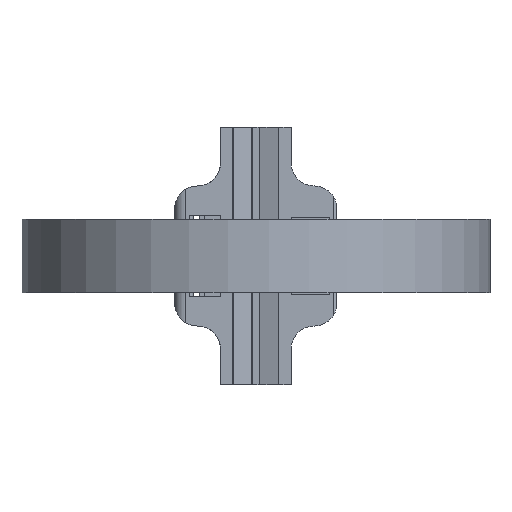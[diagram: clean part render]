
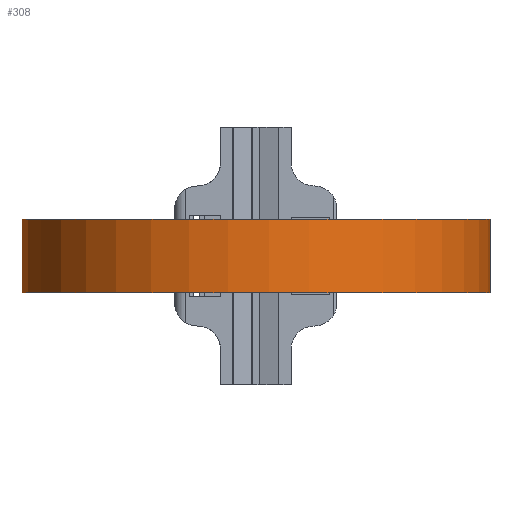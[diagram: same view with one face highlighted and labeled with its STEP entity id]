
A CAD part, front view. The second image highlights one B-rep face of the part: STEP entity #308.
In plain terms, the highlighted cylindrical face has radius 31.8 mm (diameter 63.6 mm), a partial arc.
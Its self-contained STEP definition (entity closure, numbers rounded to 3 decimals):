
#308 = ADVANCED_FACE( '', ( #667 ), #668, .T. );
#667 = FACE_OUTER_BOUND( '', #1074, .T. );
#668 = CYLINDRICAL_SURFACE( '', #1075, 31.8 );
#1074 = EDGE_LOOP( '', ( #1973, #1974, #1975, #1976 ) );
#1075 = AXIS2_PLACEMENT_3D( '', #1977, #1978, #1979 );
#1973 = ORIENTED_EDGE( '', *, *, #2835, .T. );
#1974 = ORIENTED_EDGE( '', *, *, #2519, .F. );
#1975 = ORIENTED_EDGE( '', *, *, #2703, .F. );
#1976 = ORIENTED_EDGE( '', *, *, #2836, .T. );
#1977 = CARTESIAN_POINT( '', ( 0., -31.65, 5. ) );
#1978 = DIRECTION( '', ( 0., 0., 1. ) );
#1979 = DIRECTION( '', ( -1., 0., 0. ) );
#2519 = EDGE_CURVE( '', #3051, #3047, #3053, .T. );
#2703 = EDGE_CURVE( '', #3352, #3051, #3354, .T. );
#2835 = EDGE_CURVE( '', #3542, #3047, #3543, .T. );
#2836 = EDGE_CURVE( '', #3352, #3542, #3544, .T. );
#3047 = VERTEX_POINT( '', #3808 );
#3051 = VERTEX_POINT( '', #3813 );
#3053 = LINE( '', #3815, #3816 );
#3352 = VERTEX_POINT( '', #4300 );
#3354 = CIRCLE( '', #4302, 31.8 );
#3542 = VERTEX_POINT( '', #4591 );
#3543 = CIRCLE( '', #4592, 31.8 );
#3544 = LINE( '', #4593, #4594 );
#3808 = CARTESIAN_POINT( '', ( 10.006, -1.465, -5. ) );
#3813 = CARTESIAN_POINT( '', ( 10.006, -1.465, 5. ) );
#3815 = CARTESIAN_POINT( '', ( 10.006, -1.465, 5. ) );
#3816 = VECTOR( '', #4825, 1000. );
#4300 = CARTESIAN_POINT( '', ( -8.086, -0.895, 5. ) );
#4302 = AXIS2_PLACEMENT_3D( '', #5043, #5044, #5045 );
#4591 = CARTESIAN_POINT( '', ( -8.086, -0.895, -5. ) );
#4592 = AXIS2_PLACEMENT_3D( '', #5204, #5205, #5206 );
#4593 = CARTESIAN_POINT( '', ( -8.086, -0.895, 5. ) );
#4594 = VECTOR( '', #5207, 1000. );
#4825 = DIRECTION( '', ( 0., 0., -1. ) );
#5043 = CARTESIAN_POINT( '', ( 0., -31.65, 5. ) );
#5044 = DIRECTION( '', ( 0., 0., 1. ) );
#5045 = DIRECTION( '', ( 1., 0., 0. ) );
#5204 = CARTESIAN_POINT( '', ( 0., -31.65, -5. ) );
#5205 = DIRECTION( '', ( 0., 0., 1. ) );
#5206 = DIRECTION( '', ( 1., 0., 0. ) );
#5207 = DIRECTION( '', ( 0., 0., -1. ) );
